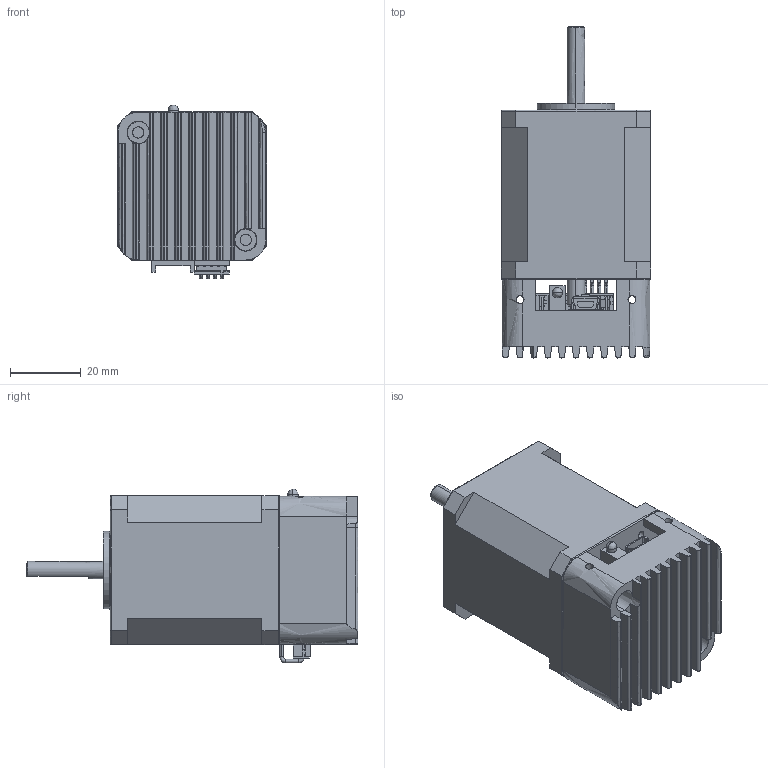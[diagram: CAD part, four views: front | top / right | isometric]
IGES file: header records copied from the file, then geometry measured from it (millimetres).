
Start section: SolidWorks IGES file using analytic representation for surfaces
Global section: file name: C:\Users\IEUser\Documents\Christine folder\Arcus\Project #23 DMX Drawings\DMX-J-SA\DMX-J-SA-17-3.IGS; native system: SolidWorks 2008; preprocessor: SolidWorks 2008; author: IEUser; date: 140224.214700; units: millimetre
Bounding box: 42.3 x 94.11 x 49.29 mm (x, y, z)
Surface area: 25547.2 mm2 (no closed solid volume)
Topology: 0 solids, 0 shells, 1133 faces, 8534 edges, 8516 vertices
Faces by surface type: bspline 877, revolution 256
